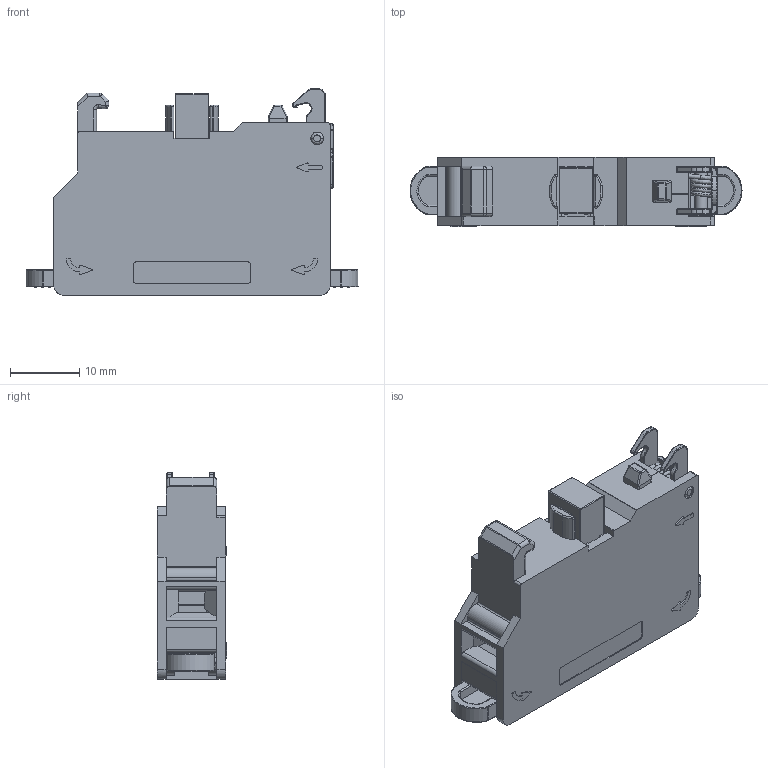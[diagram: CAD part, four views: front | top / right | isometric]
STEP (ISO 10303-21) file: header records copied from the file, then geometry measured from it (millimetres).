
FILE_DESCRIPTION (( 'STEP AP203' ), '1' );
FILE_NAME ('LB22SA1-NC.STEP', '2025-03-14T01:45:27', ( '微软用户' ), ( '微软中国' ), 'SwSTEP 2.0', 'SolidWorks 2022', '' );
FILE_SCHEMA (( 'CONFIG_CONTROL_DESIGN' ));
Length unit declared in the file: millimetre
Products named in the file (1): LB22SA1-NC
Bounding box: 48 x 10.05 x 29.89 mm (x, y, z)
Volume: 5568 mm3; surface area: 9482 mm2
Topology: 1 solids, 15 shells, 1762 faces, 4698 edges, 2991 vertices
Faces by surface type: plane 841, cylinder 473, bspline 406, cone 42
Entity records: 66235 total; most frequent: CARTESIAN_POINT 25922, ORIENTED_EDGE 9374, DIRECTION 6938, EDGE_CURVE 4687, VERTEX_POINT 2991, VECTOR 2618, LINE 2618, AXIS2_PLACEMENT_3D 2160
